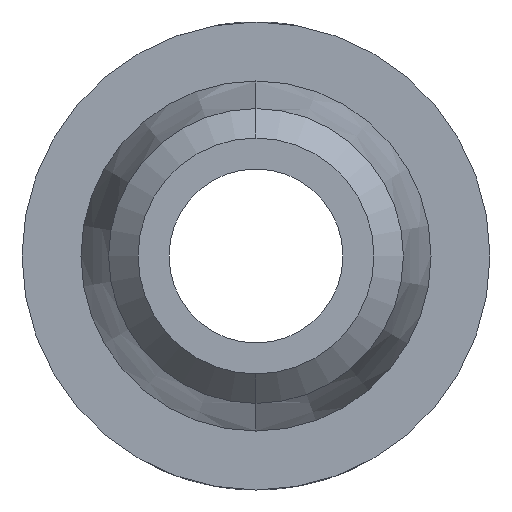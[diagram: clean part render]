
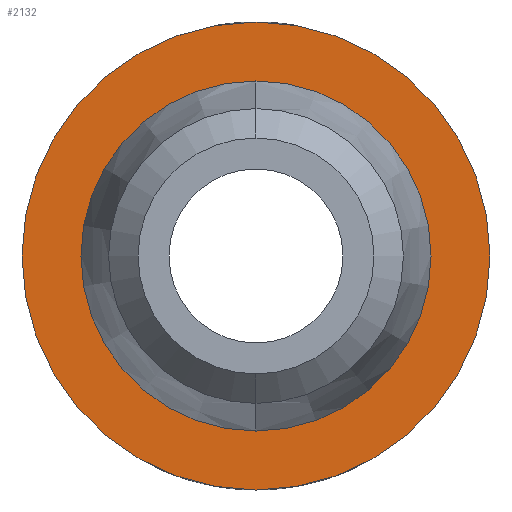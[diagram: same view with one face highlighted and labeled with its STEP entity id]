
A CAD part, left-side view. The second image highlights one B-rep face of the part: STEP entity #2132.
In plain terms, the highlighted planar face has unit normal (1, 0, 0).
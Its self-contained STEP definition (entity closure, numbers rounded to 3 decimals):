
#42=PLANE('',#2456);
#131=CIRCLE('',#2457,3.175);
#132=CIRCLE('',#2458,2.375);
#193=FACE_BOUND('',#313,.T.);
#222=FACE_OUTER_BOUND('',#312,.T.);
#312=EDGE_LOOP('',(#1816));
#313=EDGE_LOOP('',(#1817));
#1002=VERTEX_POINT('',#4074);
#1003=VERTEX_POINT('',#4076);
#1409=EDGE_CURVE('',#1002,#1002,#131,.T.);
#1410=EDGE_CURVE('',#1003,#1003,#132,.T.);
#1816=ORIENTED_EDGE('',*,*,#1409,.T.);
#1817=ORIENTED_EDGE('',*,*,#1410,.T.);
#2132=ADVANCED_FACE('',(#222,#193),#42,.T.);
#2456=AXIS2_PLACEMENT_3D('',#4073,#2741,#2742);
#2457=AXIS2_PLACEMENT_3D('',#4075,#2743,#2744);
#2458=AXIS2_PLACEMENT_3D('',#4077,#2745,#2746);
#2741=DIRECTION('center_axis',(1.,0.,0.));
#2742=DIRECTION('ref_axis',(0.,0.,-1.));
#2743=DIRECTION('center_axis',(1.,0.,0.));
#2744=DIRECTION('ref_axis',(0.,0.,-1.));
#2745=DIRECTION('center_axis',(-1.,0.,0.));
#2746=DIRECTION('ref_axis',(0.,0.,
-1.));
#4073=CARTESIAN_POINT('Origin',(-4.5,-3.213,0.));
#4074=CARTESIAN_POINT('',(-4.5,0.,3.175));
#4075=CARTESIAN_POINT('Origin',(-4.5,0.,0.));
#4076=CARTESIAN_POINT('',(-4.5,0.,2.375));
#4077=CARTESIAN_POINT('Origin',(-4.5,0.,0.));
